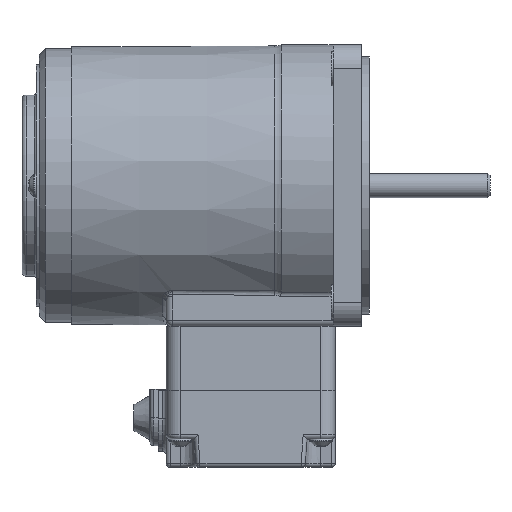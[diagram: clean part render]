
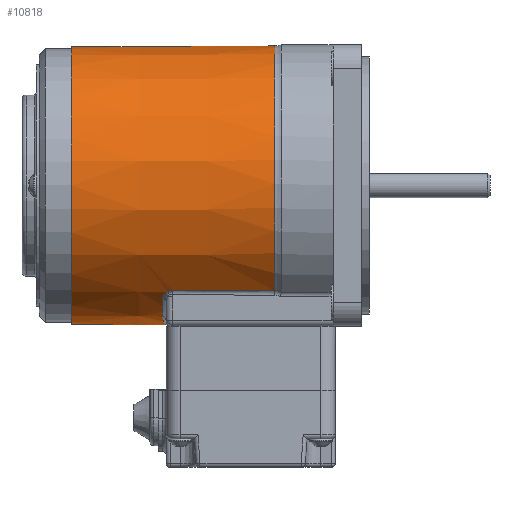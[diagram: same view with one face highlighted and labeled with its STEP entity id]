
A CAD part, top view. The second image highlights one B-rep face of the part: STEP entity #10818.
In plain terms, the highlighted conical face has half-angle 0.227 degrees and reference radius 34.6 mm.
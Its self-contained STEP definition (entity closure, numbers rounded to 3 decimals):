
#111=B_SPLINE_CURVE_WITH_KNOTS('',3,(#16480,#16481,#16482,#16483),
 .UNSPECIFIED.,.F.,.F.,(4,4),(-4.151,-1.604),
 .UNSPECIFIED.);
#118=B_SPLINE_CURVE_WITH_KNOTS('',3,(#16546,#16547,#16548,#16549),
 .UNSPECIFIED.,.F.,.F.,(4,4),(-5.195,-2.649),
 .UNSPECIFIED.);
#126=B_SPLINE_CURVE_WITH_KNOTS('',3,(#16675,#16676,#16677,#16678,#16679,
#16680,#16681,#16682),.UNSPECIFIED.,.F.,.F.,(4,1,1,2,4),(-0.126,
-0.076,-0.051,0.,0.),
 .UNSPECIFIED.);
#127=B_SPLINE_CURVE_WITH_KNOTS('',3,(#16684,#16685,#16686,#16687),
 .UNSPECIFIED.,.F.,.F.,(4,4),(-0.11,0.),
 .UNSPECIFIED.);
#128=B_SPLINE_CURVE_WITH_KNOTS('',3,(#16689,#16690,#16691,#16692),
 .UNSPECIFIED.,.F.,.F.,(4,4),(-0.215,0.),
 .UNSPECIFIED.);
#129=B_SPLINE_CURVE_WITH_KNOTS('',3,(#16696,#16697,#16698,#16699,#16700,
#16701,#16702,#16703,#16704),.UNSPECIFIED.,.F.,.F.,(4,1,1,1,1,1,4),(-2.459,
-2.108,-1.757,-1.405,-1.054,
-0.351,0.),.UNSPECIFIED.);
#130=B_SPLINE_CURVE_WITH_KNOTS('',3,(#16708,#16709,#16710,#16711),
 .UNSPECIFIED.,.F.,.F.,(4,4),(-0.215,0.),
 .UNSPECIFIED.);
#131=B_SPLINE_CURVE_WITH_KNOTS('',3,(#16713,#16714,#16715,#16716),
 .UNSPECIFIED.,.F.,.F.,(4,4),(0.,0.11),.UNSPECIFIED.);
#132=B_SPLINE_CURVE_WITH_KNOTS('',3,(#16717,#16718,#16719,#16720,#16721,
#16722,#16723,#16724),.UNSPECIFIED.,.F.,.F.,(4,2,1,1,4),(-0.127,
-0.126,-0.076,-0.051,0.),
 .UNSPECIFIED.);
#1987=CONICAL_SURFACE('',#11576,34.6,0.227);
#2271=FACE_BOUND('',#3171,.T.);
#2474=FACE_OUTER_BOUND('',#3170,.T.);
#3170=EDGE_LOOP('',(#7338,#7339,#7340,#7341,#7342,#7343,#7344,#7345,#7346,
#7347,#7348,#7349));
#3171=EDGE_LOOP('',(#7350));
#3817=CIRCLE('',#11537,34.5);
#3822=CIRCLE('',#11548,34.7);
#3836=CIRCLE('',#11577,34.589);
#3837=CIRCLE('',#11578,34.589);
#4418=VERTEX_POINT('',#16390);
#4427=VERTEX_POINT('',#16434);
#4430=VERTEX_POINT('',#16475);
#4433=VERTEX_POINT('',#16496);
#4436=VERTEX_POINT('',#16532);
#4454=VERTEX_POINT('',#16674);
#4455=VERTEX_POINT('',#16683);
#4456=VERTEX_POINT('',#16688);
#4457=VERTEX_POINT('',#16693);
#4458=VERTEX_POINT('',#16695);
#4459=VERTEX_POINT('',#16705);
#4460=VERTEX_POINT('',#16707);
#4461=VERTEX_POINT('',#16712);
#5476=EDGE_CURVE('',#4418,#4418,#3817,.T.);
#5491=EDGE_CURVE('',#4430,#4427,#111,.T.);
#5497=EDGE_CURVE('',#4427,#4433,#3822,.T.);
#5503=EDGE_CURVE('',#4433,#4436,#118,.T.);
#5536=EDGE_CURVE('',#4454,#4430,#126,.T.);
#5537=EDGE_CURVE('',#4455,#4454,#127,.T.);
#5538=EDGE_CURVE('',#4456,#4455,#128,.T.);
#5539=EDGE_CURVE('',#4457,#4456,#3836,.T.);
#5540=EDGE_CURVE('',#4458,#4457,#129,.T.);
#5541=EDGE_CURVE('',#4459,#4458,#3837,.T.);
#5542=EDGE_CURVE('',#4460,#4459,#130,.T.);
#5543=EDGE_CURVE('',#4461,#4460,#131,.T.);
#5544=EDGE_CURVE('',#4436,#4461,#132,.T.);
#7338=ORIENTED_EDGE('',*,*,#5536,.F.);
#7339=ORIENTED_EDGE('',*,*,#5537,.F.);
#7340=ORIENTED_EDGE('',*,*,#5538,.F.);
#7341=ORIENTED_EDGE('',*,*,#5539,.F.);
#7342=ORIENTED_EDGE('',*,*,#5540,.F.);
#7343=ORIENTED_EDGE('',*,*,#5541,.F.);
#7344=ORIENTED_EDGE('',*,*,#5542,.F.);
#7345=ORIENTED_EDGE('',*,*,#5543,.F.);
#7346=ORIENTED_EDGE('',*,*,#5544,.F.);
#7347=ORIENTED_EDGE('',*,*,#5503,.F.);
#7348=ORIENTED_EDGE('',*,*,#5497,.F.);
#7349=ORIENTED_EDGE('',*,*,#5491,.F.);
#7350=ORIENTED_EDGE('',*,*,#5476,.T.);
#10818=ADVANCED_FACE('',(#2474,#2271),#1987,.T.);
#11537=AXIS2_PLACEMENT_3D('',#16391,#13026,#13027);
#11548=AXIS2_PLACEMENT_3D('',#16501,#13054,#13055);
#11576=AXIS2_PLACEMENT_3D('',#16673,#13123,#13124);
#11577=AXIS2_PLACEMENT_3D('',#16694,#13125,#13126);
#11578=AXIS2_PLACEMENT_3D('',#16706,#13127,#13128);
#13026=DIRECTION('center_axis',(1.,0.,0.));
#13027=DIRECTION('ref_axis',(0.,1.,0.));
#13054=DIRECTION('center_axis',(1.,0.,0.));
#13055=DIRECTION('ref_axis',(0.,1.,0.));
#13123=DIRECTION('center_axis',(1.,0.,0.));
#13124=DIRECTION('ref_axis',(0.,1.,0.));
#13125=DIRECTION('center_axis',(1.,0.,0.));
#13126=DIRECTION('ref_axis',(0.,-0.901,-0.434));
#13127=DIRECTION('center_axis',(1.,0.,0.));
#13128=DIRECTION('ref_axis',(0.,-0.901,0.434));
#16390=CARTESIAN_POINT('',(8.,34.5,0.));
#16391=CARTESIAN_POINT('Origin',(8.,0.,
0.));
#16434=CARTESIAN_POINT('',(58.46,-26.146,-22.814));
#16475=CARTESIAN_POINT('',(32.994,-26.014,-22.811));
#16480=CARTESIAN_POINT('Ctrl Pts',(32.994,-26.014,-22.811));
#16481=CARTESIAN_POINT('Ctrl Pts',(41.483,-26.058,-22.812));
#16482=CARTESIAN_POINT('Ctrl Pts',(49.971,-26.102,-22.813));
#16483=CARTESIAN_POINT('Ctrl Pts',(58.46,-26.146,-22.814));
#16496=CARTESIAN_POINT('',(58.46,-26.146,22.814));
#16501=CARTESIAN_POINT('Origin',(58.46,0.,
0.));
#16532=CARTESIAN_POINT('',(32.994,-26.014,22.811));
#16546=CARTESIAN_POINT('Ctrl Pts',(58.46,-26.146,22.814));
#16547=CARTESIAN_POINT('Ctrl Pts',(49.971,-26.102,22.813));
#16548=CARTESIAN_POINT('Ctrl Pts',(41.483,-26.058,22.812));
#16549=CARTESIAN_POINT('Ctrl Pts',(32.994,-26.014,22.811));
#16673=CARTESIAN_POINT('Origin',(33.23,0.,
0.));
#16674=CARTESIAN_POINT('',(31.869,-26.38,-22.381));
#16675=CARTESIAN_POINT('Ctrl Pts',(31.869,-26.38,-22.381));
#16676=CARTESIAN_POINT('Ctrl Pts',(32.009,-26.321,-22.45));
#16677=CARTESIAN_POINT('Ctrl Pts',(32.229,-26.242,-22.544));
#16678=CARTESIAN_POINT('Ctrl Pts',(32.605,-26.124,-22.683));
#16679=CARTESIAN_POINT('Ctrl Pts',(32.836,-26.059,-22.759));
#16680=CARTESIAN_POINT('Ctrl Pts',(32.991,-26.015,-22.81));
#16681=CARTESIAN_POINT('Ctrl Pts',(32.993,-26.015,-22.811));
#16682=CARTESIAN_POINT('Ctrl Pts',(32.994,-26.014,-22.811));
#16683=CARTESIAN_POINT('',(31.101,-26.865,-21.791));
#16684=CARTESIAN_POINT('Ctrl Pts',(31.101,-26.865,-21.791));
#16685=CARTESIAN_POINT('Ctrl Pts',(31.303,-26.678,-22.022));
#16686=CARTESIAN_POINT('Ctrl Pts',(31.564,-26.506,-22.23));
#16687=CARTESIAN_POINT('Ctrl Pts',(31.869,-26.38,-22.381));
#16688=CARTESIAN_POINT('',(30.504,-28.067,-20.216));
#16689=CARTESIAN_POINT('Ctrl Pts',(30.504,-28.067,-20.216));
#16690=CARTESIAN_POINT('Ctrl Pts',(30.504,-27.66,-20.78));
#16691=CARTESIAN_POINT('Ctrl Pts',(30.705,-27.229,-21.34));
#16692=CARTESIAN_POINT('Ctrl Pts',(31.101,-26.865,-21.791));
#16693=CARTESIAN_POINT('',(30.504,-32.559,-11.676));
#16694=CARTESIAN_POINT('Origin',(30.504,0.,
0.));
#16695=CARTESIAN_POINT('',(30.504,-32.559,11.676));
#16696=CARTESIAN_POINT('Ctrl Pts',(30.504,-32.559,11.676));
#16697=CARTESIAN_POINT('Ctrl Pts',(30.504,-32.943,10.605));
#16698=CARTESIAN_POINT('Ctrl Pts',(30.687,-33.606,8.422));
#16699=CARTESIAN_POINT('Ctrl Pts',(31.172,-34.269,5.101));
#16700=CARTESIAN_POINT('Ctrl Pts',(31.656,-34.607,1.72));
#16701=CARTESIAN_POINT('Ctrl Pts',(31.643,-34.607,-2.848));
#16702=CARTESIAN_POINT('Ctrl Pts',(30.751,-33.937,-7.329));
#16703=CARTESIAN_POINT('Ctrl Pts',(30.504,-32.943,-10.605));
#16704=CARTESIAN_POINT('Ctrl Pts',(30.504,-32.559,-11.676));
#16705=CARTESIAN_POINT('',(30.504,-28.067,20.216));
#16706=CARTESIAN_POINT('Origin',(30.504,0.,
0.));
#16707=CARTESIAN_POINT('',(31.101,-26.865,21.791));
#16708=CARTESIAN_POINT('Ctrl Pts',(31.101,-26.865,21.791));
#16709=CARTESIAN_POINT('Ctrl Pts',(30.705,-27.229,21.34));
#16710=CARTESIAN_POINT('Ctrl Pts',(30.504,-27.66,20.78));
#16711=CARTESIAN_POINT('Ctrl Pts',(30.504,-28.067,20.216));
#16712=CARTESIAN_POINT('',(31.869,-26.38,22.381));
#16713=CARTESIAN_POINT('Ctrl Pts',(31.869,-26.38,22.381));
#16714=CARTESIAN_POINT('Ctrl Pts',(31.564,-26.506,22.23));
#16715=CARTESIAN_POINT('Ctrl Pts',(31.303,-26.678,22.022));
#16716=CARTESIAN_POINT('Ctrl Pts',(31.101,-26.865,21.791));
#16717=CARTESIAN_POINT('Ctrl Pts',(32.994,-26.014,22.811));
#16718=CARTESIAN_POINT('Ctrl Pts',(32.993,-26.015,22.811));
#16719=CARTESIAN_POINT('Ctrl Pts',(32.991,-26.015,22.81));
#16720=CARTESIAN_POINT('Ctrl Pts',(32.836,-26.059,22.759));
#16721=CARTESIAN_POINT('Ctrl Pts',(32.605,-26.124,22.683));
#16722=CARTESIAN_POINT('Ctrl Pts',(32.229,-26.242,22.544));
#16723=CARTESIAN_POINT('Ctrl Pts',(32.009,-26.321,22.45));
#16724=CARTESIAN_POINT('Ctrl Pts',(31.869,-26.38,22.381));
